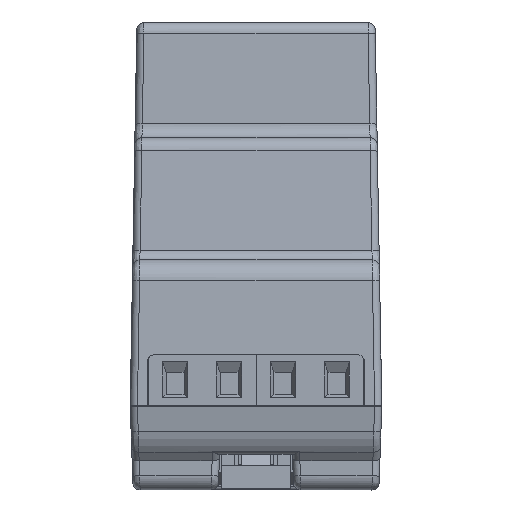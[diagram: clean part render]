
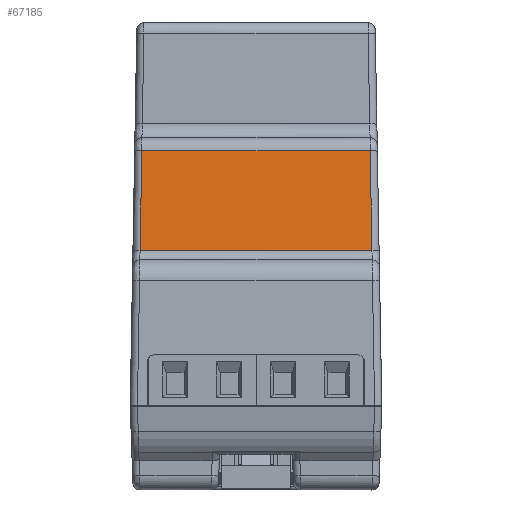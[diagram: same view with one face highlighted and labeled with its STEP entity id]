
A CAD part, left-side view. The second image highlights one B-rep face of the part: STEP entity #67185.
In plain terms, the highlighted planar face has unit normal (-0.996, 0, 0.087).
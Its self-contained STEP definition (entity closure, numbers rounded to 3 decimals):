
#4008=PLANE('',#71079);
#6928=FACE_OUTER_BOUND('',#10536,.T.);
#10536=EDGE_LOOP('',(#50498,#50499,#50500,#50501));
#15166=LINE('',#94984,#23258);
#15167=LINE('',#94989,#23259);
#15168=LINE('',#94991,#23260);
#15169=LINE('',#94992,#23261);
#23258=VECTOR('',#77068,10.);
#23259=VECTOR('',#77075,10.);
#23260=VECTOR('',#77076,10.);
#23261=VECTOR('',#77077,10.);
#31593=VERTEX_POINT('',#94982);
#31594=VERTEX_POINT('',#94983);
#31595=VERTEX_POINT('',#94988);
#31596=VERTEX_POINT('',#94990);
#38793=EDGE_CURVE('',#31593,#31594,#15166,.T.);
#38796=EDGE_CURVE('',#31595,#31594,#15167,.T.);
#38797=EDGE_CURVE('',#31596,#31595,#15168,.T.);
#38798=EDGE_CURVE('',#31593,#31596,#15169,.T.);
#50498=ORIENTED_EDGE('',*,*,#38796,.F.);
#50499=ORIENTED_EDGE('',*,*,#38797,.F.);
#50500=ORIENTED_EDGE('',*,*,#38798,.F.);
#50501=ORIENTED_EDGE('',*,*,#38793,.T.);
#67185=ADVANCED_FACE('',(#6928),#4008,.T.);
#71079=AXIS2_PLACEMENT_3D('',#94987,#77073,#77074);
#77068=DIRECTION('',(0.,1.,0.));
#77073=DIRECTION('center_axis',(-0.996,0.,0.087));
#77074=DIRECTION('ref_axis',(0.087,0.,0.996));
#77075=DIRECTION('',(0.087,-0.017,0.996));
#77076=DIRECTION('',(0.,1.,0.));
#77077=DIRECTION('',(-0.087,-0.017,-0.996));
#94982=CARTESIAN_POINT('',(-32.84,1.618,47.174));
#94983=CARTESIAN_POINT('',(-32.84,33.382,47.174));
#94984=CARTESIAN_POINT('',(-32.84,0.,47.174));
#94987=CARTESIAN_POINT('Origin',(-32.84,0.,47.174));
#94988=CARTESIAN_POINT('',(-34.048,33.623,33.369));
#94989=CARTESIAN_POINT('',(-34.447,33.703,28.804));
#94990=CARTESIAN_POINT('',(-34.048,1.377,33.369));
#94991=CARTESIAN_POINT('',(-34.048,0.,33.369));
#94992=CARTESIAN_POINT('',(-34.473,1.292,28.501));
